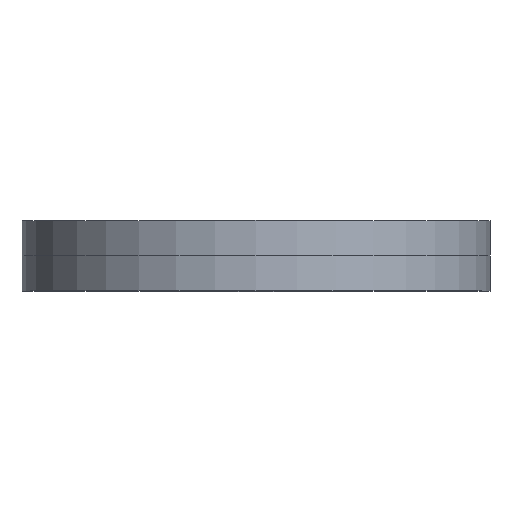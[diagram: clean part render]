
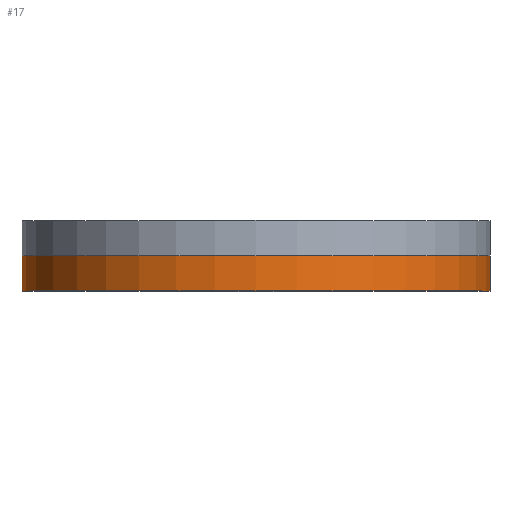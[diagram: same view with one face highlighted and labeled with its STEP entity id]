
A CAD part, top view. The second image highlights one B-rep face of the part: STEP entity #17.
In plain terms, the highlighted cylindrical face has radius 80 mm (diameter 160 mm), a full revolution.
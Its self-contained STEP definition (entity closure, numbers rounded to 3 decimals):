
#17 = ADVANCED_FACE('',(#18),#32,.T.);
#18 = FACE_BOUND('',#19,.F.);
#19 = EDGE_LOOP('',(#20,#50,#77,#78));
#20 = ORIENTED_EDGE('',*,*,#21,.T.);
#21 = EDGE_CURVE('',#22,#24,#26,.T.);
#22 = VERTEX_POINT('',#23);
#23 = CARTESIAN_POINT('',(80.,0.,0.));
#24 = VERTEX_POINT('',#25);
#25 = CARTESIAN_POINT('',(80.,-12.,0.));
#26 = SEAM_CURVE('',#27,(#31,#43),.PCURVE_S1.);
#27 = LINE('',#28,#29);
#28 = CARTESIAN_POINT('',(80.,0.,0.));
#29 = VECTOR('',#30,1.);
#30 = DIRECTION('',(0.,-1.,0.));
#31 = PCURVE('',#32,#37);
#32 = CYLINDRICAL_SURFACE('',#33,80.);
#33 = AXIS2_PLACEMENT_3D('',#34,#35,#36);
#34 = CARTESIAN_POINT('',(0.,0.,0.));
#35 = DIRECTION('',(-0.,1.,-0.));
#36 = DIRECTION('',(1.,0.,0.));
#37 = DEFINITIONAL_REPRESENTATION('',(#38),#42);
#38 = LINE('',#39,#40);
#39 = CARTESIAN_POINT('',(-0.,0.));
#40 = VECTOR('',#41,1.);
#41 = DIRECTION('',(-0.,-1.));
#42 = ( GEOMETRIC_REPRESENTATION_CONTEXT(2) 
PARAMETRIC_REPRESENTATION_CONTEXT() REPRESENTATION_CONTEXT('2D SPACE',''
  ) );
#43 = PCURVE('',#32,#44);
#44 = DEFINITIONAL_REPRESENTATION('',(#45),#49);
#45 = LINE('',#46,#47);
#46 = CARTESIAN_POINT('',(-6.283,0.));
#47 = VECTOR('',#48,1.);
#48 = DIRECTION('',(-0.,-1.));
#49 = ( GEOMETRIC_REPRESENTATION_CONTEXT(2) 
PARAMETRIC_REPRESENTATION_CONTEXT() REPRESENTATION_CONTEXT('2D SPACE',''
  ) );
#50 = ORIENTED_EDGE('',*,*,#51,.T.);
#51 = EDGE_CURVE('',#24,#24,#52,.T.);
#52 = SURFACE_CURVE('',#53,(#58,#65),.PCURVE_S1.);
#53 = CIRCLE('',#54,80.);
#54 = AXIS2_PLACEMENT_3D('',#55,#56,#57);
#55 = CARTESIAN_POINT('',(0.,-12.,0.));
#56 = DIRECTION('',(0.,-1.,0.));
#57 = DIRECTION('',(1.,0.,0.));
#58 = PCURVE('',#32,#59);
#59 = DEFINITIONAL_REPRESENTATION('',(#60),#64);
#60 = LINE('',#61,#62);
#61 = CARTESIAN_POINT('',(-0.,-12.));
#62 = VECTOR('',#63,1.);
#63 = DIRECTION('',(-1.,0.));
#64 = ( GEOMETRIC_REPRESENTATION_CONTEXT(2) 
PARAMETRIC_REPRESENTATION_CONTEXT() REPRESENTATION_CONTEXT('2D SPACE',''
  ) );
#65 = PCURVE('',#66,#71);
#66 = PLANE('',#67);
#67 = AXIS2_PLACEMENT_3D('',#68,#69,#70);
#68 = CARTESIAN_POINT('',(0.,-12.,0.));
#69 = DIRECTION('',(-0.,-1.,-0.));
#70 = DIRECTION('',(0.,0.,-1.));
#71 = DEFINITIONAL_REPRESENTATION('',(#72),#76);
#72 = CIRCLE('',#73,80.);
#73 = AXIS2_PLACEMENT_2D('',#74,#75);
#74 = CARTESIAN_POINT('',(0.,0.));
#75 = DIRECTION('',(0.,1.));
#76 = ( GEOMETRIC_REPRESENTATION_CONTEXT(2) 
PARAMETRIC_REPRESENTATION_CONTEXT() REPRESENTATION_CONTEXT('2D SPACE',''
  ) );
#77 = ORIENTED_EDGE('',*,*,#21,.F.);
#78 = ORIENTED_EDGE('',*,*,#79,.F.);
#79 = EDGE_CURVE('',#22,#22,#80,.T.);
#80 = SURFACE_CURVE('',#81,(#86,#93),.PCURVE_S1.);
#81 = CIRCLE('',#82,80.);
#82 = AXIS2_PLACEMENT_3D('',#83,#84,#85);
#83 = CARTESIAN_POINT('',(0.,0.,0.));
#84 = DIRECTION('',(0.,-1.,0.));
#85 = DIRECTION('',(1.,0.,0.));
#86 = PCURVE('',#32,#87);
#87 = DEFINITIONAL_REPRESENTATION('',(#88),#92);
#88 = LINE('',#89,#90);
#89 = CARTESIAN_POINT('',(-0.,0.));
#90 = VECTOR('',#91,1.);
#91 = DIRECTION('',(-1.,0.));
#92 = ( GEOMETRIC_REPRESENTATION_CONTEXT(2) 
PARAMETRIC_REPRESENTATION_CONTEXT() REPRESENTATION_CONTEXT('2D SPACE',''
  ) );
#93 = PCURVE('',#94,#99);
#94 = CYLINDRICAL_SURFACE('',#95,80.);
#95 = AXIS2_PLACEMENT_3D('',#96,#97,#98);
#96 = CARTESIAN_POINT('',(0.,0.,0.));
#97 = DIRECTION('',(0.,-1.,0.));
#98 = DIRECTION('',(1.,0.,0.));
#99 = DEFINITIONAL_REPRESENTATION('',(#100),#103);
#100 = B_SPLINE_CURVE_WITH_KNOTS('',1,(#101,#102),.UNSPECIFIED.,.F.,.F.,
  (2,2),(0.,6.283),.PIECEWISE_BEZIER_KNOTS.);
#101 = CARTESIAN_POINT('',(0.,0.));
#102 = CARTESIAN_POINT('',(6.283,0.));
#103 = ( GEOMETRIC_REPRESENTATION_CONTEXT(2) 
PARAMETRIC_REPRESENTATION_CONTEXT() REPRESENTATION_CONTEXT('2D SPACE',''
  ) );
